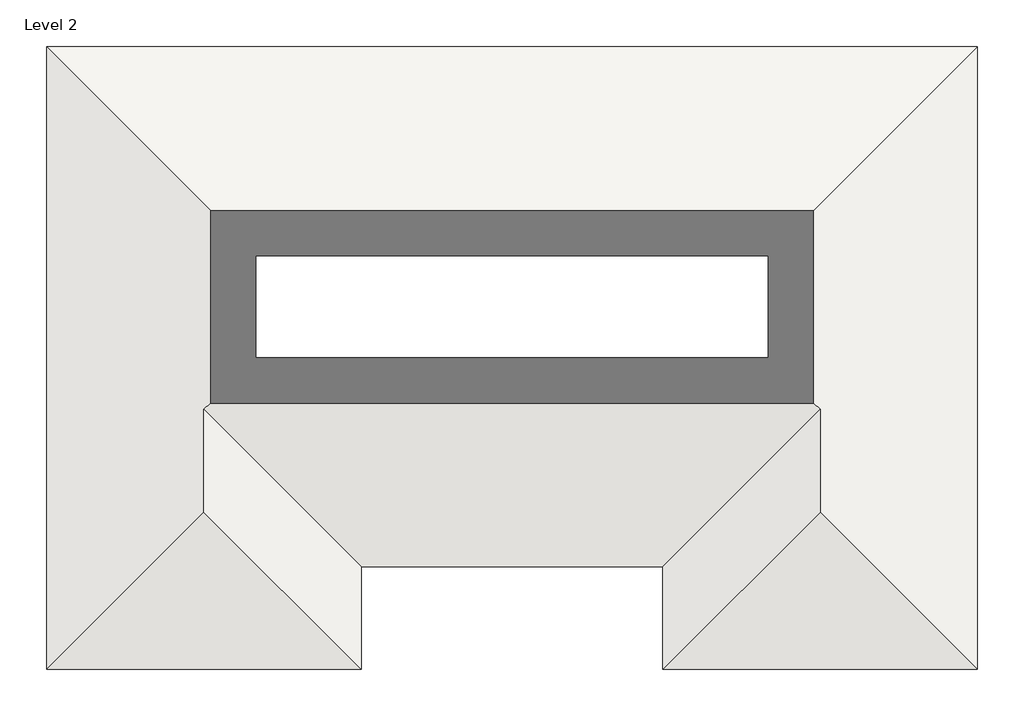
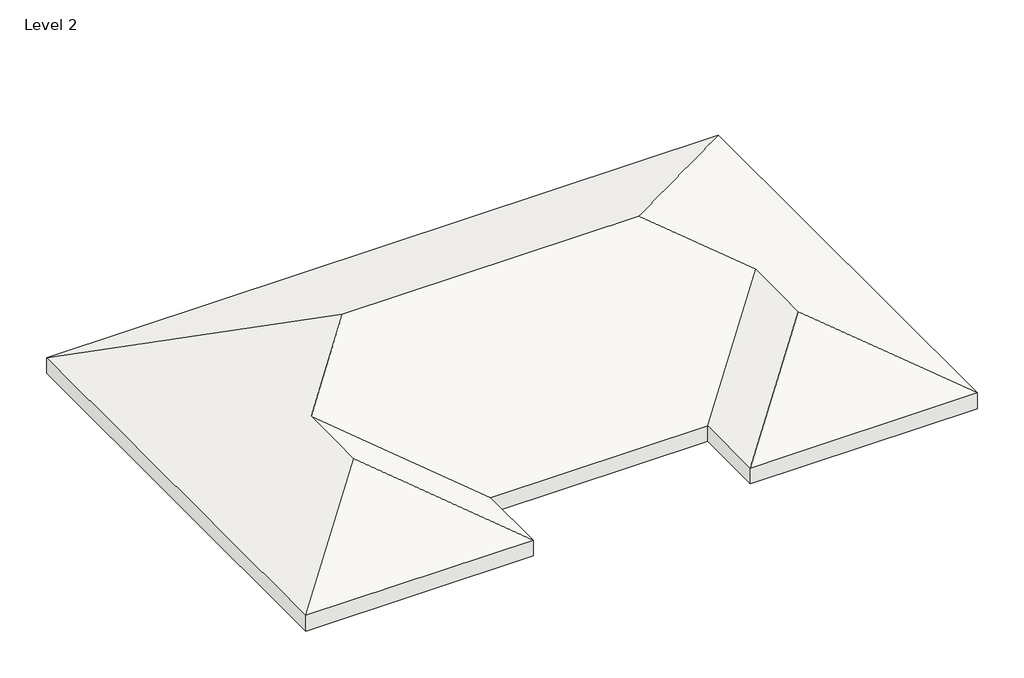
# One storey: 1 roof.
"""IFC4 building model written with IfcOpenShell, lengths in millimetres."""

from ifc_helpers import new_model, si_unit, origin, place, context, project, spatial, faceted_brep, element, save

model = new_model("IFC4")

# Units and contexts
model_context = context("Model", 3, world=origin())
ifc_project = project(units=[si_unit("LENGTHUNIT", "METRE", prefix="MILLI")], contexts=[model_context])

# Site, building, storey
site = spatial("IfcSite", under=ifc_project)
building = spatial("IfcBuilding", under=site)
storey = spatial("IfcBuildingStorey", under=building, Name="Level 2", Elevation=3048.0)

# Roof
placement = place(None, origin())
element("IfcRoof", 1, ObjectType="Generic - 12\"", at=placement, inside=storey, context=model_context, shape_type="Brep", body=[
    faceted_brep([(-4108.8845581, -3493.8859239, 2692.4), (-6445.6845581, -1157.0859239, 3860.8), (-6445.6845581, 366.9140761, 3860.8), (-4108.8845581, -1969.8859239, 2692.4), (-8782.4845581, -3493.8859239, 2692.4), (361.5154419, -1969.8859239, 2692.4), (2698.3154419, 366.9140761, 3860.8), (2698.3154419, -1157.0859239, 3860.8), (361.5154419, -3493.8859239, 2692.4), (5035.1154419, -3493.8859239, 2692.4), (-8782.4845581, 5751.7140761, 2692.4), (-4921.6845581, 1890.9140761, 4622.8), (1174.3154419, 1890.9140761, 4622.8), (5035.1154419, 5751.7140761, 2692.4), (-4108.8845581, -3493.8859239, 3033.1767598), (-4108.8845581, -1969.8859239, 3033.1767598), (-6445.6845581, 366.9140761, 4201.5767598), (-6445.6845581, -1157.0859239, 4201.5767598), (-8782.4845581, -3493.8859239, 3033.1767598), (361.5154419, -1969.8859239, 3033.1767598), (361.5154419, -3493.8859239, 3033.1767598), (2698.3154419, -1157.0859239, 4201.5767598), (2698.3154419, 366.9140761, 4201.5767598), (5035.1154419, -3493.8859239, 3033.1767598), (-4921.6845581, 1890.9140761, 4963.5767598), (-8782.4845581, 5751.7140761, 3033.1767598), (1174.3154419, 1890.9140761, 4963.5767598), (5035.1154419, 5751.7140761, 3033.1767598)], [[[0, 1, 2, 3]], [[4, 1, 0]], [[5, 6, 7, 8]], [[8, 7, 9]], [[1, 4, 10, 11, 2]], [[3, 2, 11, 12, 6, 5]], [[13, 12, 11, 10]], [[9, 7, 6, 12, 13]], [[14, 15, 16, 17]], [[18, 14, 17]], [[19, 20, 21, 22]], [[20, 23, 21]], [[18, 17, 16, 24, 25]], [[15, 19, 22, 26, 24, 16]], [[27, 25, 24, 26]], [[23, 27, 26, 22, 21]], [[0, 14, 18, 4]], [[3, 15, 14, 0]], [[5, 19, 15, 3]], [[8, 20, 19, 5]], [[9, 23, 20, 8]], [[13, 27, 23, 9]], [[10, 25, 27, 13]], [[4, 18, 25, 10]]]),
])

save(model, "model.ifc")
